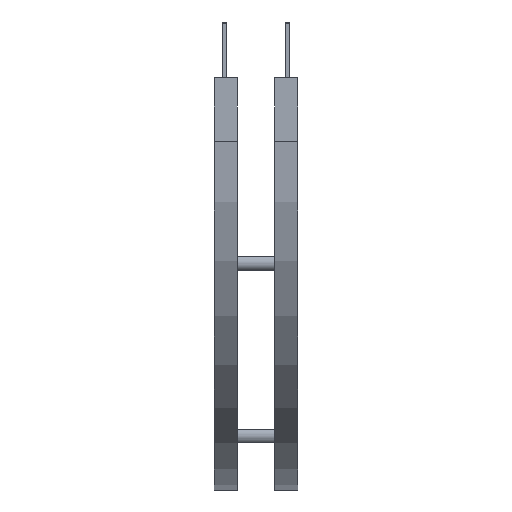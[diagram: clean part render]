
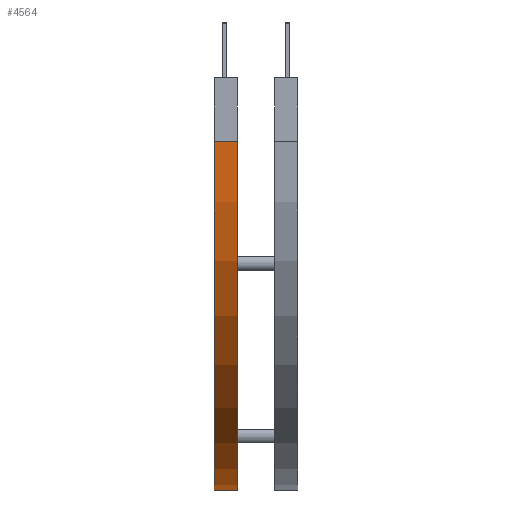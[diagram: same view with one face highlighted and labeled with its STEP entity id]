
A CAD part, front view. The second image highlights one B-rep face of the part: STEP entity #4564.
In plain terms, the highlighted cylindrical face has radius 438.15 mm (diameter 876.3 mm), a partial arc.
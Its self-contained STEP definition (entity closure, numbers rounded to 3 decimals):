
#868 = DIRECTION ( 'NONE',  ( 0., 0., -1. ) ) ;
#912 = DIRECTION ( 'NONE',  ( 1., 0., 0. ) ) ;
#913 = CARTESIAN_POINT ( 'NONE',  ( 29., 438.15, -80. ) ) ;
#914 = AXIS2_PLACEMENT_3D ( 'NONE', #913, #912, #868 ) ;
#915 = CIRCLE ( 'NONE', #914, 438.15 ) ;
#994 = CARTESIAN_POINT ( 'NONE',  ( 29., 0., -80. ) ) ;
#995 = CARTESIAN_POINT ( 'NONE',  ( 0., 0., -80. ) ) ;
#996 = DIRECTION ( 'NONE',  ( 1., 0., 0. ) ) ;
#997 = VECTOR ( 'NONE', #996, 1000. ) ;
#998 = CARTESIAN_POINT ( 'NONE',  ( 29., 0., -80. ) ) ;
#1001 = FACE_OUTER_BOUND ( 'NONE', #4565, .T. ) ;
#1002 = LINE ( 'NONE', #998, #997 ) ;
#1003 = DIRECTION ( 'NONE',  ( 0., 0., -1. ) ) ;
#1004 = DIRECTION ( 'NONE',  ( 1., 0., 0. ) ) ;
#1005 = CARTESIAN_POINT ( 'NONE',  ( 0., 438.15, -80. ) ) ;
#1006 = AXIS2_PLACEMENT_3D ( 'NONE', #1005, #1004, #1003 ) ;
#1019 = CYLINDRICAL_SURFACE ( 'NONE', #1006, 438.15 ) ;
#1040 = DIRECTION ( 'NONE',  ( 0., 0., -1. ) ) ;
#1041 = DIRECTION ( 'NONE',  ( 1., 0., 0. ) ) ;
#1042 = CARTESIAN_POINT ( 'NONE',  ( 0., 438.15, -80. ) ) ;
#1043 = AXIS2_PLACEMENT_3D ( 'NONE', #1042, #1041, #1040 ) ;
#1044 = CIRCLE ( 'NONE', #1043, 438.15 ) ;
#4092 = EDGE_CURVE ( 'NONE', #4093, #4094, #7474, .T. ) ;
#4093 = VERTEX_POINT ( 'NONE', #7433 ) ;
#4094 = VERTEX_POINT ( 'NONE', #7432 ) ;
#4397 = ORIENTED_EDGE ( 'NONE', *, *, #4496, .F. ) ;
#4496 = EDGE_CURVE ( 'NONE', #4569, #4094, #915, .T. ) ;
#4564 = ADVANCED_FACE ( 'NONE', ( #1001 ), #1019, .T. ) ;
#4565 = EDGE_LOOP ( 'NONE', ( #4566, #4570, #4572, #4397 ) ) ;
#4566 = ORIENTED_EDGE ( 'NONE', *, *, #4567, .F. ) ;
#4567 = EDGE_CURVE ( 'NONE', #4568, #4569, #1002, .T. ) ;
#4568 = VERTEX_POINT ( 'NONE', #995 ) ;
#4569 = VERTEX_POINT ( 'NONE', #994 ) ;
#4570 = ORIENTED_EDGE ( 'NONE', *, *, #4571, .T. ) ;
#4571 = EDGE_CURVE ( 'NONE', #4568, #4093, #1044, .T. ) ;
#4572 = ORIENTED_EDGE ( 'NONE', *, *, #4092, .T. ) ;
#7432 = CARTESIAN_POINT ( 'NONE',  ( 29., 438.15, -518.15 ) ) ;
#7433 = CARTESIAN_POINT ( 'NONE',  ( 0., 438.15, -518.15 ) ) ;
#7434 = VECTOR ( 'NONE', #7475, 1000. ) ;
#7474 = LINE ( 'NONE', #7476, #7434 ) ;
#7475 = DIRECTION ( 'NONE',  ( 1., 0., 0. ) ) ;
#7476 = CARTESIAN_POINT ( 'NONE',  ( 29., 438.15, -518.15 ) ) ;
